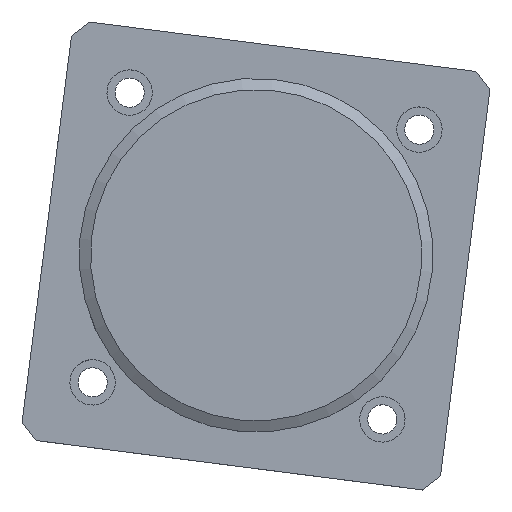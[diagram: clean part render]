
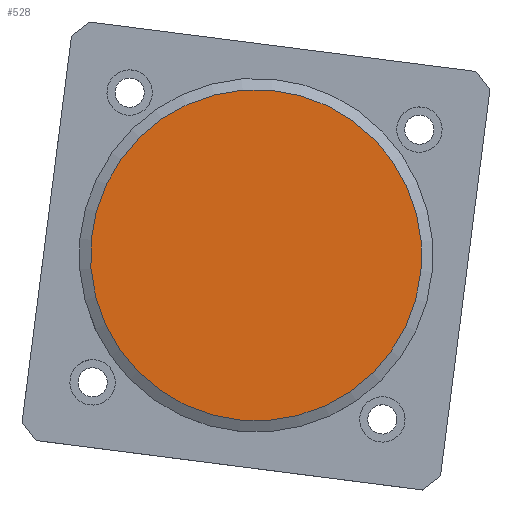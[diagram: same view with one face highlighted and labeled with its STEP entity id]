
A CAD part, top view. The second image highlights one B-rep face of the part: STEP entity #528.
In plain terms, the highlighted planar face has unit normal (0, 0, 1).
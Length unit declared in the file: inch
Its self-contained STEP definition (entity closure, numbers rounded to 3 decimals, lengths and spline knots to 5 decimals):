
#67=PLANE('',#592);
#162=FACE_OUTER_BOUND('',#204,.T.);
#204=EDGE_LOOP('',(#409));
#272=CIRCLE('',#591,2.00929);
#303=VERTEX_POINT('',#828);
#350=EDGE_CURVE('',#303,#303,#272,.T.);
#409=ORIENTED_EDGE('',*,*,#350,.T.);
#528=ADVANCED_FACE('',(#162),#67,.T.);
#591=AXIS2_PLACEMENT_3D('',#829,#672,#673);
#592=AXIS2_PLACEMENT_3D('',#830,#674,#675);
#672=DIRECTION('center_axis',(0.,0.,
1.));
#673=DIRECTION('ref_axis',(-0.265,-0.964,0.));
#674=DIRECTION('center_axis',(0.,0.,
1.));
#675=DIRECTION('ref_axis',(-0.265,-0.964,0.));
#828=CARTESIAN_POINT('',(10.40552,34.56935,8.77635));
#829=CARTESIAN_POINT('Origin',(10.93771,36.50688,8.77649));
#830=CARTESIAN_POINT('Origin',(10.93771,36.50688,8.77649));
